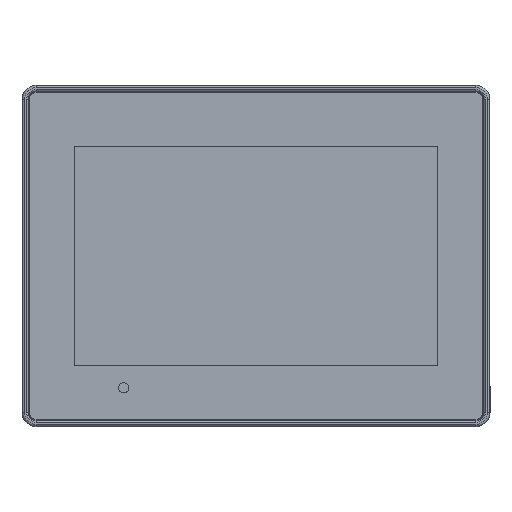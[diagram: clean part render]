
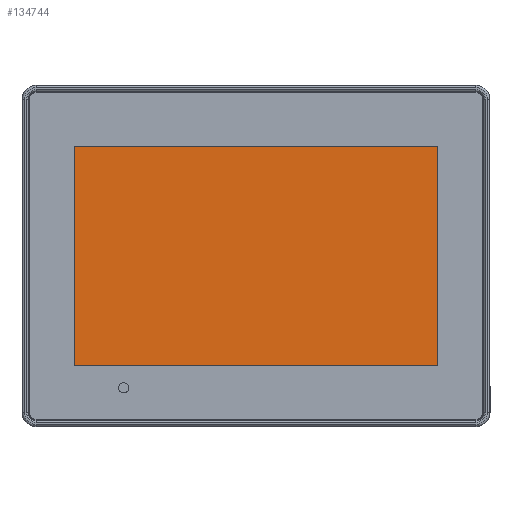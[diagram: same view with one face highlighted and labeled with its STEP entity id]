
A CAD part, top view. The second image highlights one B-rep face of the part: STEP entity #134744.
In plain terms, the highlighted planar face has unit normal (0, 0, 1).
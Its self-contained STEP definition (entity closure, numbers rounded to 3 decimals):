
#16384=FACE_OUTER_BOUND('',#24024,.T.);
#24024=EDGE_LOOP('',(#87933,#87934,#87935,#87936));
#32162=LINE('',#193925,#41947);
#32163=LINE('',#193927,#41948);
#32164=LINE('',#193929,#41949);
#32165=LINE('',#193930,#41950);
#41947=VECTOR('',#156450,10.);
#41948=VECTOR('',#156451,10.);
#41949=VECTOR('',#156452,10.);
#41950=VECTOR('',#156453,10.);
#51987=VERTEX_POINT('',#193923);
#51988=VERTEX_POINT('',#193924);
#51989=VERTEX_POINT('',#193926);
#51990=VERTEX_POINT('',#193928);
#65571=EDGE_CURVE('',#51987,#51988,#32162,.T.);
#65572=EDGE_CURVE('',#51989,#51987,#32163,.T.);
#65573=EDGE_CURVE('',#51990,#51989,#32164,.T.);
#65574=EDGE_CURVE('',#51988,#51990,#32165,.T.);
#87933=ORIENTED_EDGE('',*,*,#65571,.F.);
#87934=ORIENTED_EDGE('',*,*,#65572,.F.);
#87935=ORIENTED_EDGE('',*,*,#65573,.F.);
#87936=ORIENTED_EDGE('',*,*,#65574,.F.);
#123731=PLANE('',#142835);
#134744=ADVANCED_FACE('',(#16384),#123731,.T.);
#142835=AXIS2_PLACEMENT_3D('',#193922,#156448,#156449);
#156448=DIRECTION('center_axis',(0.,0.,1.));
#156449=DIRECTION('ref_axis',(1.,0.,0.));
#156450=DIRECTION('',(-1.,0.,0.));
#156451=DIRECTION('',(0.,-1.,0.));
#156452=DIRECTION('',(1.,0.,0.));
#156453=DIRECTION('',(0.,1.,0.));
#193922=CARTESIAN_POINT('Origin',(0.,0.,1.99));
#193923=CARTESIAN_POINT('',(54.6,-32.88,1.99));
#193924=CARTESIAN_POINT('',(-54.6,-32.88,1.99));
#193925=CARTESIAN_POINT('',(-27.3,-32.88,1.99));
#193926=CARTESIAN_POINT('',(54.6,32.88,1.99));
#193927=CARTESIAN_POINT('',(54.6,-16.44,1.99));
#193928=CARTESIAN_POINT('',(-54.6,32.88,1.99));
#193929=CARTESIAN_POINT('',(27.3,32.88,1.99));
#193930=CARTESIAN_POINT('',(-54.6,16.44,1.99));
